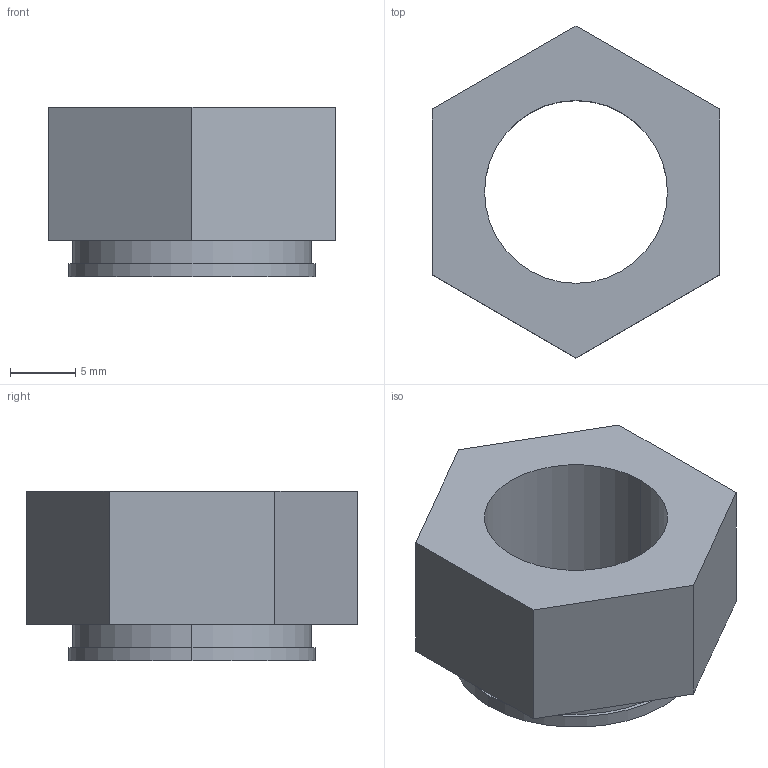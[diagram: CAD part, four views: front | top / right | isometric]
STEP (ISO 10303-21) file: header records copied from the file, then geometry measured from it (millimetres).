
FILE_DESCRIPTION (( 'STEP AP214' ), '1' );
FILE_NAME ('FO-00D-NCB-M16-020 FORMAT Ãàéêà M16 äëÿ çàïðåññîâêè â øèíó.STEP', '2025-09-02T06:38:45', ( '' ), ( '' ), 'SwSTEP 2.0', 'SolidWorks 2023', '' );
FILE_SCHEMA (( 'AUTOMOTIVE_DESIGN' ));
Length unit declared in the file: millimetre
Products named in the file (1): FO-00D-NCB-M16-020 FORMAT Гайка M16 для запрессовки в шину
Bounding box: 22 x 25.4 x 13 mm (x, y, z)
Volume: 3024.1 mm3; surface area: 2076.9 mm2
Topology: 1 solids, 1 shells, 16 faces, 36 edges, 24 vertices
Faces by surface type: plane 10, cylinder 6
Entity records: 479 total; most frequent: DIRECTION 82, CARTESIAN_POINT 77, ORIENTED_EDGE 72, EDGE_CURVE 36, AXIS2_PLACEMENT_3D 29, VERTEX_POINT 24, VECTOR 24, LINE 24
